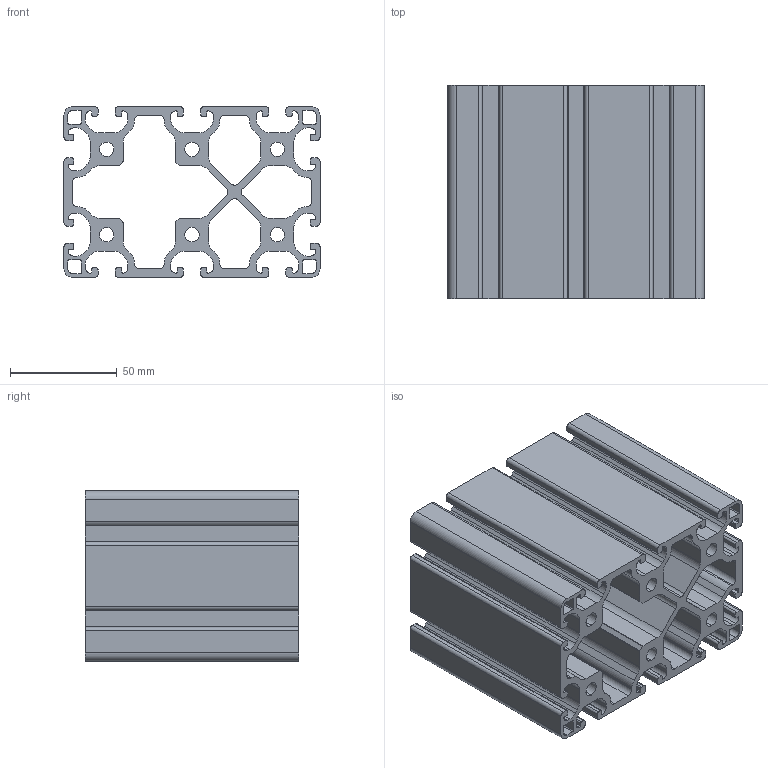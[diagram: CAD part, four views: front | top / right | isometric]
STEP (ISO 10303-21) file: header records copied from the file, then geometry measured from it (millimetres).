
FILE_DESCRIPTION (( 'STEP AP203' ), '1' );
FILE_NAME ('0108P12080L.STEP', '2024-02-28T08:00:50', ( 'Windows-Benutzer' ), ( '' ), 'SwSTEP 2.0', 'SolidWorks 2023', '' );
FILE_SCHEMA (( 'CONFIG_CONTROL_DESIGN' ));
Length unit declared in the file: millimetre
Products named in the file (1): 0108P12080L
Bounding box: 120 x 100 x 80 mm (x, y, z)
Volume: 301407.9 mm3; surface area: 167106.5 mm2
Topology: 1 solids, 1 shells, 427 faces, 1275 edges, 850 vertices
Faces by surface type: cylinder 229, plane 198
Entity records: 14640 total; most frequent: DIRECTION 2589, CARTESIAN_POINT 2553, ORIENTED_EDGE 2550, EDGE_CURVE 1275, AXIS2_PLACEMENT_3D 886, VERTEX_POINT 850, VECTOR 817, LINE 817
